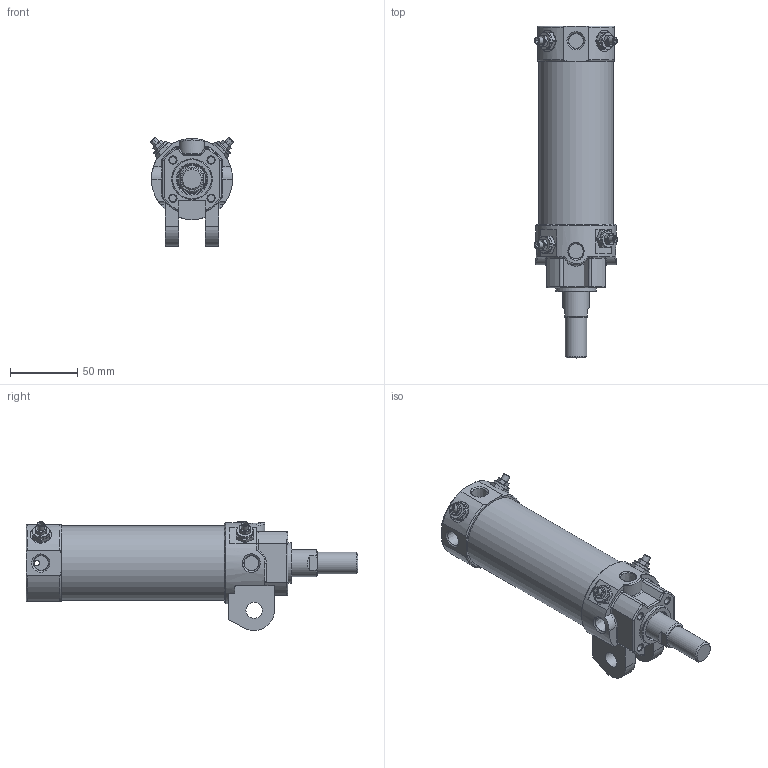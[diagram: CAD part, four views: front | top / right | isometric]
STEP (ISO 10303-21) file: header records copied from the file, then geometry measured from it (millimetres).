
FILE_DESCRIPTION((''),'2;1');
FILE_NAME('I:\3D電子目錄\氣缸\DCK\DCK\DCK-1B-50x75.stp','2008-02-26T14:16:51',('Administrator'),(''),'Autodesk Inventor 11','Autodesk Inventor 11','');
FILE_SCHEMA(('AUTOMOTIVE_DESIGN { 1 0 10303 214 1 1 1 1 }'));
Length unit declared in the file: millimetre
Products named in the file (6): DCK-1B-50; 緩衝針; 緩衝針-1; 緩衝針-201; 緩衝針-3
Assembly tree (8 placements, depth 3):
  DCK-1B-50
    DCK-1B-50
    緩衝針  x4
      緩衝針-1
      緩衝針-201
      緩衝針-3
Bounding box: 61.76 x 246 x 80.87 mm (x, y, z)
Volume: 235725.6 mm3; surface area: 101733 mm2
Topology: 15 solids, 15 shells, 570 faces, 1270 edges, 794 vertices
Faces by surface type: plane 213, cylinder 168, cone 133, torus 30, bspline 26
Full cylindrical faces by diameter (mm): 2 x2, 3 x4, 3.8 x2, 4 x6, 4.6 x4, 5 x8, 5.1 x4, 5.2 x12, 5.5 x4, 7.25 x1, 7.9 x4, 8 x2, 10.3 x1, 11.3 x1, 12 x4, 12.8 x4, 16 x2, 20 x1, 21 x1, 22 x2, 23 x1, 24.7 x1, 26 x1, 27 x1, 28 x1, 29 x1, 30 x1, 33 x1, 49.5 x1, 52 x2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
Entity records: 11478 total; most frequent: CARTESIAN_POINT 4706, DIRECTION 1374, ORIENTED_EDGE 1222, EDGE_CURVE 611, AXIS2_PLACEMENT_3D 598, EDGE_LOOP 497, VERTEX_POINT 444, FACE_OUTER_BOUND 321
